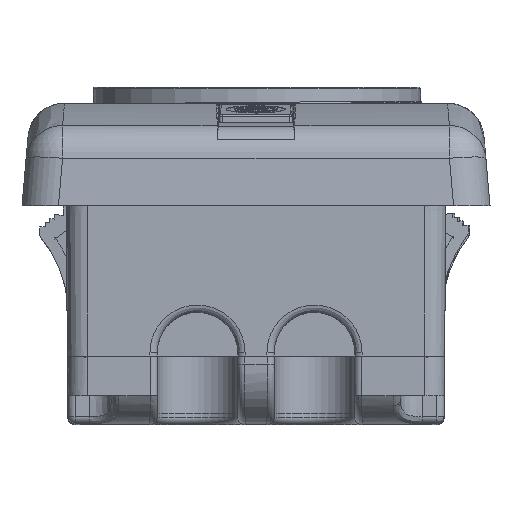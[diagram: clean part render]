
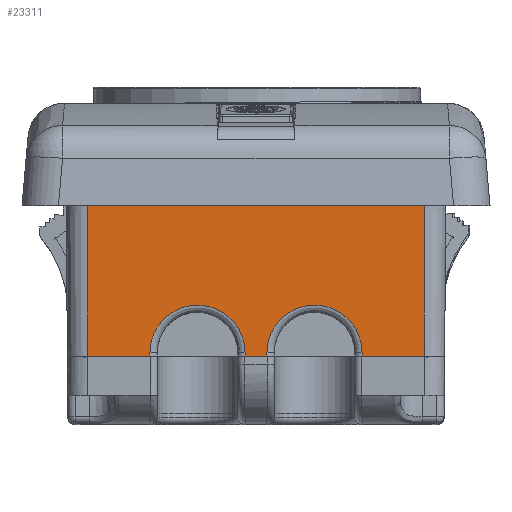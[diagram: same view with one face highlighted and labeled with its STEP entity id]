
A CAD part, left-side view. The second image highlights one B-rep face of the part: STEP entity #23311.
In plain terms, the highlighted planar face has unit normal (-1, 0, -0.009) as drawn and (-1, 0.009, 0) by its records, which use the part's own axes.
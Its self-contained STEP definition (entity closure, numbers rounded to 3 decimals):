
#16653=CARTESIAN_POINT('',(-96.291,26.3,-23.));
#16654=VERTEX_POINT('',#16653);
#16662=CARTESIAN_POINT('',(-96.291,26.3,-14.5));
#16663=VERTEX_POINT('',#16662);
#16664=CARTESIAN_POINT('',(-96.291,26.3,-23.));
#16665=DIRECTION('',(0.0,0.0,1.0));
#16666=VECTOR('',#16665,8.5);
#16667=LINE('',#16664,#16666);
#16668=EDGE_CURVE('',#16654,#16663,#16667,.T.);
#16703=CARTESIAN_POINT('',(-96.291,26.3,-1.5));
#16704=VERTEX_POINT('',#16703);
#16712=CARTESIAN_POINT('',(-96.291,26.3,1.5));
#16713=VERTEX_POINT('',#16712);
#16714=CARTESIAN_POINT('',(-96.291,26.3,-1.5));
#16715=DIRECTION('',(0.0,0.0,1.0));
#16716=VECTOR('',#16715,3.);
#16717=LINE('',#16714,#16716);
#16718=EDGE_CURVE('',#16704,#16713,#16717,.T.);
#16753=CARTESIAN_POINT('',(-96.291,26.3,14.5));
#16754=VERTEX_POINT('',#16753);
#16762=CARTESIAN_POINT('',(-96.291,26.3,23.));
#16763=VERTEX_POINT('',#16762);
#16764=CARTESIAN_POINT('',(-96.291,26.3,14.5));
#16765=DIRECTION('',(0.0,0.0,1.0));
#16766=VECTOR('',#16765,8.5);
#16767=LINE('',#16764,#16766);
#16768=EDGE_CURVE('',#16754,#16763,#16767,.T.);
#23053=CARTESIAN_POINT('',(-96.471,5.7,23.));
#23054=VERTEX_POINT('',#23053);
#23080=CARTESIAN_POINT('',(-96.291,26.3,23.));
#23081=DIRECTION('',(-0.009,-1.,0.0));
#23082=VECTOR('',#23081,20.601);
#23083=LINE('',#23080,#23082);
#23084=EDGE_CURVE('',#23054,#16763,#23083,.F.);
#23240=CARTESIAN_POINT('',(-96.5,2.4,22.734));
#23241=DIRECTION('',(-1.,0.009,0.0));
#23242=DIRECTION('',(0.0,0.0,1.0));
#23243=AXIS2_PLACEMENT_3D('',#23240,#23241,#23242);
#23244=PLANE('',#23243);
#23245=CARTESIAN_POINT('',(-96.471,5.7,-23.));
#23246=VERTEX_POINT('',#23245);
#23247=CARTESIAN_POINT('',(-96.471,5.7,-23.));
#23248=DIRECTION('',(0.0,0.0,1.0));
#23249=VECTOR('',#23248,46.);
#23250=LINE('',#23247,#23249);
#23251=EDGE_CURVE('',#23246,#23054,#23250,.T.);
#23252=ORIENTED_EDGE('',*,*,#23251,.T.);
#23253=ORIENTED_EDGE('',*,*,#23084,.T.);
#23254=ORIENTED_EDGE('',*,*,#16768,.F.);
#23255=CARTESIAN_POINT('',(-96.296,25.809,14.5));
#23256=VERTEX_POINT('',#23255);
#23257=CARTESIAN_POINT('',(-96.291,26.3,14.5));
#23258=DIRECTION('',(-0.009,-1.,0.0));
#23259=VECTOR('',#23258,0.491);
#23260=LINE('',#23257,#23259);
#23261=EDGE_CURVE('',#16754,#23256,#23260,.T.);
#23262=ORIENTED_EDGE('',*,*,#23261,.T.);
#23263=CARTESIAN_POINT('',(-96.296,25.809,1.5));
#23264=VERTEX_POINT('',#23263);
#23265=CARTESIAN_POINT('',(-96.296,25.809,8.0));
#23266=DIRECTION('',(-1.,0.009,0.0));
#23267=DIRECTION('',(-0.009,-1.,0.0));
#23268=AXIS2_PLACEMENT_3D('',#23265,#23266,#23267);
#23269=ELLIPSE('',#23268,6.5,6.5);
#23270=EDGE_CURVE('',#23256,#23264,#23269,.F.);
#23271=ORIENTED_EDGE('',*,*,#23270,.T.);
#23272=CARTESIAN_POINT('',(-96.296,25.809,1.5));
#23273=DIRECTION('',(0.009,1.,0.));
#23274=VECTOR('',#23273,0.491);
#23275=LINE('',#23272,#23274);
#23276=EDGE_CURVE('',#23264,#16713,#23275,.T.);
#23277=ORIENTED_EDGE('',*,*,#23276,.T.);
#23278=ORIENTED_EDGE('',*,*,#16718,.F.);
#23279=CARTESIAN_POINT('',(-96.296,25.809,-1.5));
#23280=VERTEX_POINT('',#23279);
#23281=CARTESIAN_POINT('',(-96.291,26.3,-1.5));
#23282=DIRECTION('',(-0.009,-1.,0.));
#23283=VECTOR('',#23282,0.491);
#23284=LINE('',#23281,#23283);
#23285=EDGE_CURVE('',#16704,#23280,#23284,.T.);
#23286=ORIENTED_EDGE('',*,*,#23285,.T.);
#23287=CARTESIAN_POINT('',(-96.296,25.809,-14.5));
#23288=VERTEX_POINT('',#23287);
#23289=CARTESIAN_POINT('',(-96.296,25.809,-8.0));
#23290=DIRECTION('',(-1.,0.009,0.0));
#23291=DIRECTION('',(-0.009,-1.,0.0));
#23292=AXIS2_PLACEMENT_3D('',#23289,#23290,#23291);
#23293=ELLIPSE('',#23292,6.5,6.5);
#23294=EDGE_CURVE('',#23280,#23288,#23293,.F.);
#23295=ORIENTED_EDGE('',*,*,#23294,.T.);
#23296=CARTESIAN_POINT('',(-96.296,25.809,-14.5));
#23297=DIRECTION('',(0.009,1.,0.0));
#23298=VECTOR('',#23297,0.491);
#23299=LINE('',#23296,#23298);
#23300=EDGE_CURVE('',#23288,#16663,#23299,.T.);
#23301=ORIENTED_EDGE('',*,*,#23300,.T.);
#23302=ORIENTED_EDGE('',*,*,#16668,.F.);
#23303=CARTESIAN_POINT('',(-96.291,26.3,-23.));
#23304=DIRECTION('',(-0.009,-1.,0.0));
#23305=VECTOR('',#23304,20.601);
#23306=LINE('',#23303,#23305);
#23307=EDGE_CURVE('',#16654,#23246,#23306,.T.);
#23308=ORIENTED_EDGE('',*,*,#23307,.T.);
#23309=EDGE_LOOP('',(#23252,#23253,#23254,#23262,#23271,#23277,#23278,#23286,#23295,#23301,#23302,#23308));
#23310=FACE_OUTER_BOUND('',#23309,.T.);
#23311=ADVANCED_FACE('',(#23310),#23244,.T.);
